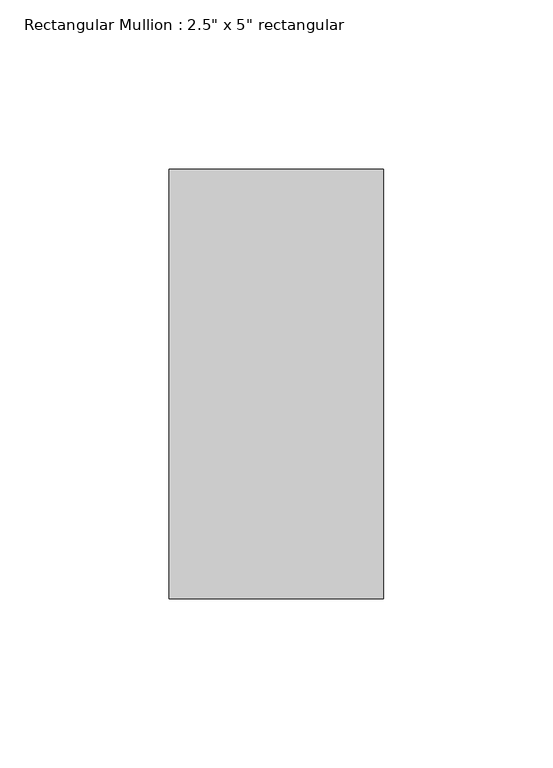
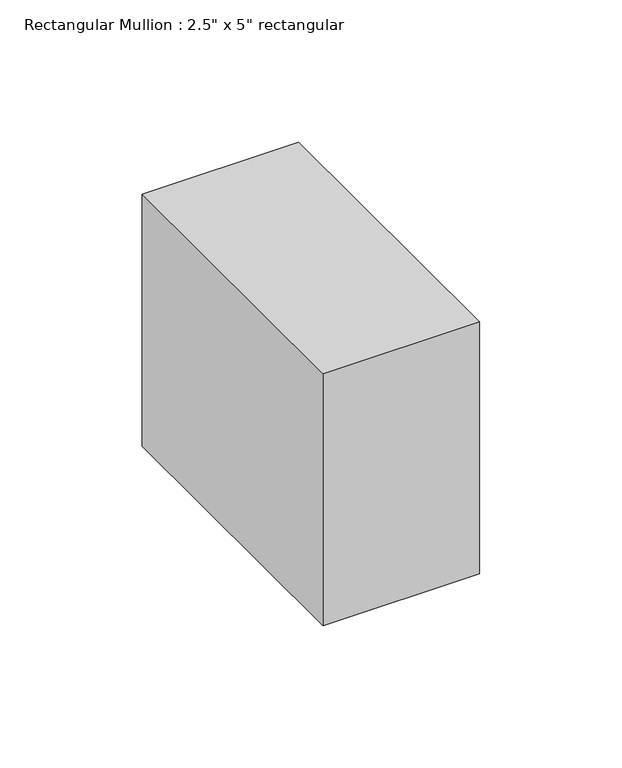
"""IFC4 building model written with IfcOpenShell, lengths in millimetres: member geometry."""

from ifc_helpers import new_model, si_unit, frame, origin, place, context, project, spatial, polyline, outline, extrude, source, transform, mapped, element, save


def member_3cf39611(model_context):
    return source(origin(), model_context, "Body", "SweptSolid", [
        extrude(outline(polyline([(0.0, 63.5), (0.0, -63.5), (-63.5, -63.5), (-63.5, 63.5), (0.0, 63.5)])), frame((0.0, 0.0, -107.95), z_axis=(0.0, 0.0, 1.0), x_axis=(1.0, 0.0, 0.0)), (0.0, 0.0, 1.0), 107.95),
    ])


if __name__ == "__main__":
    model = new_model("IFC4")
    model_context = context("Model", 3, world=origin())
    ifc_project = project(units=[si_unit("LENGTHUNIT", "METRE", prefix="MILLI")], contexts=[model_context])
    site = spatial("IfcSite", under=ifc_project)
    building = spatial("IfcBuilding", under=site)
    placement = place(None, origin())
    member_shape = member_3cf39611(model_context)
    element("IfcMember", 1, ObjectType="Rectangular Mullion : 2.5\" x 5\" rectangular", at=placement, inside=building, context=model_context, shape_type="MappedRepresentation", body=[
        mapped(member_shape, transform((0.0, 0.0, 0.0), x_axis=(1.0, 0.0, 0.0), y_axis=(0.0, 1.0, 0.0), z_axis=(0.0, 0.0, 1.0))),
    ])
    save(model, "model.ifc")
